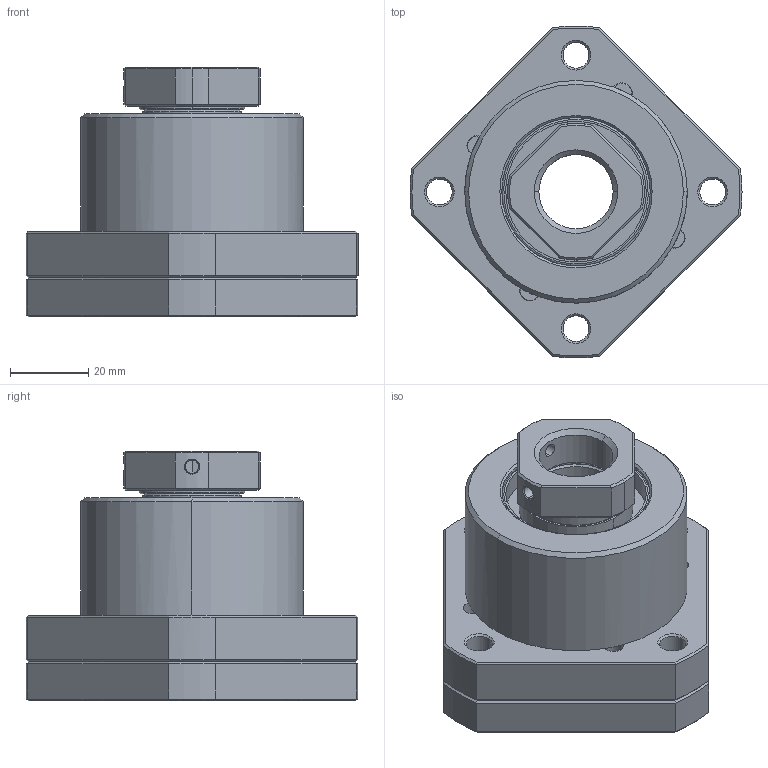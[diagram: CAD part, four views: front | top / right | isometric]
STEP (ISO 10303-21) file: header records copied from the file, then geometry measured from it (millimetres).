
FILE_DESCRIPTION (( 'STEP AP203' ), '1' );
FILE_NAME ('FK20²Õ¦X¥óB.STEP', '2022-01-25T02:36:25', ( '' ), ( '' ), 'SwSTEP 2.0', 'SolidWorks 2018', '' );
FILE_SCHEMA (( 'CONFIG_CONTROL_DESIGN' ));
Length unit declared in the file: millimetre
Products named in the file (12): 7204鋼珠7.9375; 7204; FK20蓋_網路圖; FK系列密封圈_FK20密封圈; EAFK20; M20鎖固螺帽_M20; 7204外圈; FK20油孔本體_網路; 7204保持器; 市購品鎖固件沉頭M6_P10x12L; 7204內圈; FK20組合件B
Assembly tree (27 placements, depth 3):
  FK20組合件B
    7204  x2
      7204外圈
      7204保持器
      7204內圈
      7204鋼珠7.9375
    FK20蓋_網路圖
    FK系列密封圈_FK20密封圈  x2
    EAFK20  x2
    M20鎖固螺帽_M20
    FK20油孔本體_網路
    市購品鎖固件沉頭M6_P10x12L  x4
Bounding box: 85 x 84.9 x 64 mm (x, y, z)
Volume: 134503.6 mm3; surface area: 76375.6 mm2
Topology: 39 solids, 39 shells, 678 faces, 1677 edges, 1036 vertices
Faces by surface type: cylinder 284, plane 126, torus 108, cone 96, sphere 44, bspline 20
Entity records: 16365 total; most frequent: CARTESIAN_POINT 6131, DIRECTION 1879, ORIENTED_EDGE 1726, EDGE_CURVE 863, AXIS2_PLACEMENT_3D 798, VERTEX_POINT 521, EDGE_LOOP 448, CIRCLE 407
